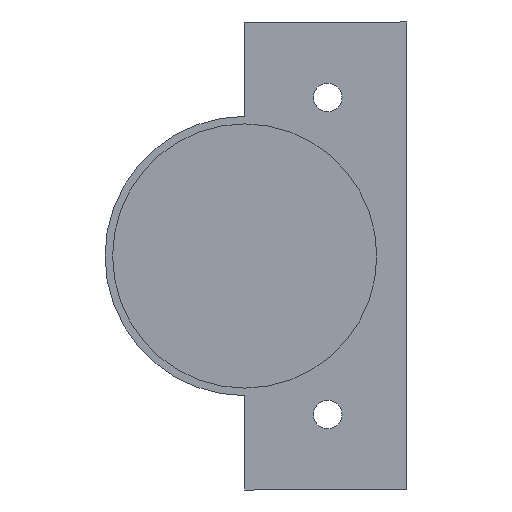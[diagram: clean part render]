
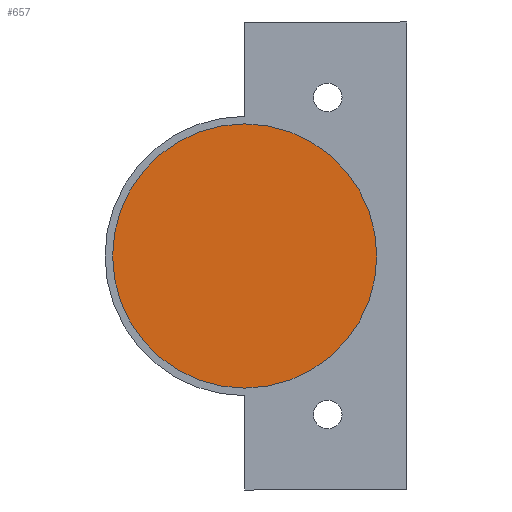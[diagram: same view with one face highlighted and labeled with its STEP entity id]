
A CAD part, front view. The second image highlights one B-rep face of the part: STEP entity #657.
In plain terms, the highlighted planar face has unit normal (0, -1, 0).
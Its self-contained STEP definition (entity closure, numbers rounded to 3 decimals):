
#53 = VERTEX_POINT ( 'NONE', #127 ) ;
#82 = VERTEX_POINT ( 'NONE', #156 ) ;
#127 = CARTESIAN_POINT ( 'NONE',  ( -12., -12.6, 0. ) ) ;
#156 = CARTESIAN_POINT ( 'NONE',  ( 23., -12.6, 0. ) ) ;
#317 = CARTESIAN_POINT ( 'NONE',  ( 5.5, -12.6, 0. ) ) ;
#318 = PLANE ( 'NONE',  #1313 ) ;
#320 = DIRECTION ( 'NONE',  ( 0., -1., 0. ) ) ;
#321 = DIRECTION ( 'NONE',  ( 1., 0., 0. ) ) ;
#555 = CARTESIAN_POINT ( 'NONE',  ( 5.5, -12.6, 0. ) ) ;
#581 = DIRECTION ( 'NONE',  ( 0., -1., 0. ) ) ;
#582 = DIRECTION ( 'NONE',  ( 1., 0., 0. ) ) ;
#583 = CARTESIAN_POINT ( 'NONE',  ( 5.5, -12.6, 0. ) ) ;
#592 = DIRECTION ( 'NONE',  ( 0., -1., 0. ) ) ;
#593 = DIRECTION ( 'NONE',  ( 1., 0., 0. ) ) ;
#657 = ADVANCED_FACE ( 'NONE', ( #1012 ), #318, .T. ) ;
#771 = ORIENTED_EDGE ( 'NONE', *, *, #1431, .T. ) ;
#772 = ORIENTED_EDGE ( 'NONE', *, *, #1426, .T. ) ;
#954 = EDGE_LOOP ( 'NONE', ( #771, #772 ) ) ;
#1012 = FACE_OUTER_BOUND ( 'NONE', #954, .T. ) ;
#1224 = CIRCLE ( 'NONE', #1445, 17.5 ) ;
#1231 = CIRCLE ( 'NONE', #1325, 17.5 ) ;
#1313 = AXIS2_PLACEMENT_3D ( 'NONE', #317, #320, #321 ) ;
#1325 = AXIS2_PLACEMENT_3D ( 'NONE', #583, #592, #593 ) ;
#1426 = EDGE_CURVE ( 'NONE', #82, #53, #1224, .T. ) ;
#1431 = EDGE_CURVE ( 'NONE', #53, #82, #1231, .T. ) ;
#1445 = AXIS2_PLACEMENT_3D ( 'NONE', #555, #581, #582 ) ;
